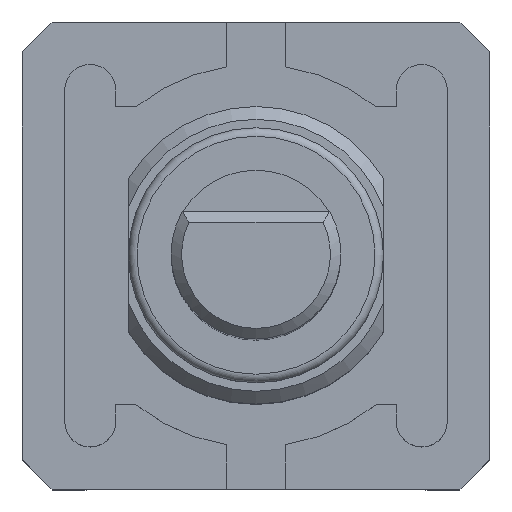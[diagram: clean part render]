
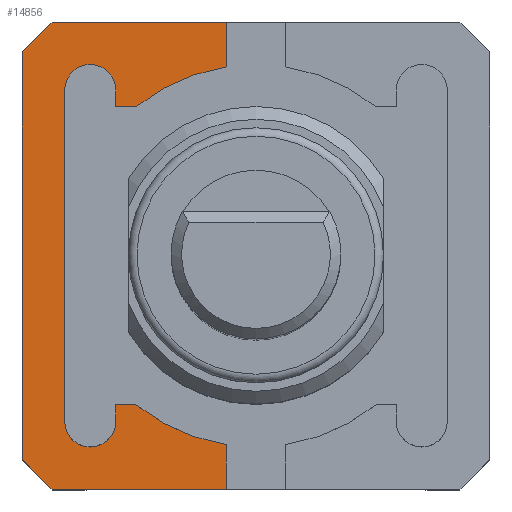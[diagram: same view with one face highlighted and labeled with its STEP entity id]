
A CAD part, top view. The second image highlights one B-rep face of the part: STEP entity #14856.
In plain terms, the highlighted planar face has unit normal (0, 0, 1).
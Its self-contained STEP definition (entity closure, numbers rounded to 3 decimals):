
#625=CIRCLE('',#15944,4.5);
#627=CIRCLE('',#15949,0.6);
#629=CIRCLE('',#15953,0.6);
#631=CIRCLE('',#15958,4.5);
#1370=FACE_OUTER_BOUND('',#2143,.T.);
#2143=EDGE_LOOP('',(#12756,#12757,#12758,#12759,#12760,#12761,#12762,#12763,
#12764,#12765,#12766,#12767,#12768,#12769,#12770,#12771));
#3615=LINE('',#23679,#5235);
#3637=LINE('',#23736,#5257);
#3729=LINE('',#23958,#5349);
#3732=LINE('',#23964,#5352);
#3736=LINE('',#23976,#5356);
#3740=LINE('',#23988,#5360);
#3743=LINE('',#23994,#5363);
#3747=LINE('',#24006,#5367);
#3774=LINE('',#24075,#5394);
#3776=LINE('',#24080,#5396);
#3777=LINE('',#24081,#5397);
#3778=LINE('',#24082,#5398);
#5235=VECTOR('',#19433,10.);
#5257=VECTOR('',#19477,10.);
#5349=VECTOR('',#19677,10.);
#5352=VECTOR('',#19682,10.);
#5356=VECTOR('',#19694,10.);
#5360=VECTOR('',#19706,10.);
#5363=VECTOR('',#19711,10.);
#5367=VECTOR('',#19723,10.);
#5394=VECTOR('',#19790,10.);
#5396=VECTOR('',#19796,10.);
#5397=VECTOR('',#19797,10.);
#5398=VECTOR('',#19798,10.);
#6584=VERTEX_POINT('',#23676);
#6585=VERTEX_POINT('',#23678);
#6608=VERTEX_POINT('',#23733);
#6609=VERTEX_POINT('',#23735);
#6670=VERTEX_POINT('',#23948);
#6671=VERTEX_POINT('',#23950);
#6673=VERTEX_POINT('',#23956);
#6675=VERTEX_POINT('',#23962);
#6677=VERTEX_POINT('',#23968);
#6679=VERTEX_POINT('',#23974);
#6681=VERTEX_POINT('',#23980);
#6683=VERTEX_POINT('',#23986);
#6685=VERTEX_POINT('',#23992);
#6687=VERTEX_POINT('',#23998);
#6689=VERTEX_POINT('',#24004);
#6712=VERTEX_POINT('',#24079);
#8546=EDGE_CURVE('',#6584,#6585,#3615,.T.);
#8572=EDGE_CURVE('',#6608,#6609,#3637,.T.);
#8676=EDGE_CURVE('',#6671,#6670,#625,.T.);
#8680=EDGE_CURVE('',#6670,#6673,#3729,.T.);
#8683=EDGE_CURVE('',#6673,#6675,#3732,.T.);
#8686=EDGE_CURVE('',#6675,#6677,#627,.T.);
#8689=EDGE_CURVE('',#6677,#6679,#3736,.T.);
#8692=EDGE_CURVE('',#6679,#6681,#629,.T.);
#8695=EDGE_CURVE('',#6681,#6683,#3740,.T.);
#8698=EDGE_CURVE('',#6683,#6685,#3743,.T.);
#8701=EDGE_CURVE('',#6685,#6687,#631,.T.);
#8704=EDGE_CURVE('',#6687,#6689,#3747,.T.);
#8739=EDGE_CURVE('',#6608,#6671,#3774,.T.);
#8741=EDGE_CURVE('',#6712,#6689,#3776,.T.);
#8742=EDGE_CURVE('',#6585,#6712,#3777,.T.);
#8743=EDGE_CURVE('',#6609,#6584,#3778,.T.);
#12756=ORIENTED_EDGE('',*,*,#8704,.T.);
#12757=ORIENTED_EDGE('',*,*,#8741,.F.);
#12758=ORIENTED_EDGE('',*,*,#8742,.F.);
#12759=ORIENTED_EDGE('',*,*,#8546,.F.);
#12760=ORIENTED_EDGE('',*,*,#8743,.F.);
#12761=ORIENTED_EDGE('',*,*,#8572,.F.);
#12762=ORIENTED_EDGE('',*,*,#8739,.T.);
#12763=ORIENTED_EDGE('',*,*,#8676,.T.);
#12764=ORIENTED_EDGE('',*,*,#8680,.T.);
#12765=ORIENTED_EDGE('',*,*,#8683,.T.);
#12766=ORIENTED_EDGE('',*,*,#8686,.T.);
#12767=ORIENTED_EDGE('',*,*,#8689,.T.);
#12768=ORIENTED_EDGE('',*,*,#8692,.T.);
#12769=ORIENTED_EDGE('',*,*,#8695,.T.);
#12770=ORIENTED_EDGE('',*,*,#8698,.T.);
#12771=ORIENTED_EDGE('',*,*,#8701,.T.);
#13385=PLANE('',#15981);
#14856=ADVANCED_FACE('',(#1370),#13385,.T.);
#15944=AXIS2_PLACEMENT_3D('',#23951,#19670,#19671);
#15949=AXIS2_PLACEMENT_3D('',#23970,#19688,#19689);
#15953=AXIS2_PLACEMENT_3D('',#23982,#19700,#19701);
#15958=AXIS2_PLACEMENT_3D('',#24000,#19717,#19718);
#15981=AXIS2_PLACEMENT_3D('',#24078,#19794,#19795);
#19433=DIRECTION('',(0.,1.,0.));
#19477=DIRECTION('',(-1.,0.,0.));
#19670=DIRECTION('center_axis',(0.,0.,
-1.));
#19671=DIRECTION('ref_axis',(0.629,0.778,0.));
#19677=DIRECTION('',(-1.,0.,0.));
#19682=DIRECTION('',(0.,-1.,0.));
#19688=DIRECTION('center_axis',(0.,0.,
-1.));
#19689=DIRECTION('ref_axis',(1.,0.,0.));
#19694=DIRECTION('',(0.,1.,0.));
#19700=DIRECTION('center_axis',(0.,0.,
-1.));
#19701=DIRECTION('ref_axis',(-1.,0.,0.));
#19706=DIRECTION('',(0.,-1.,0.));
#19711=DIRECTION('',(1.,0.,0.));
#19717=DIRECTION('center_axis',(0.,0.,
-1.));
#19718=DIRECTION('ref_axis',(0.156,-0.988,0.));
#19723=DIRECTION('',(0.,1.,0.));
#19790=DIRECTION('',(0.,1.,0.));
#19794=DIRECTION('center_axis',(0.,0.,
1.));
#19795=DIRECTION('ref_axis',(0.,1.,0.));
#19796=DIRECTION('',(1.,0.,0.));
#19797=DIRECTION('',(0.707,0.707,0.));
#19798=DIRECTION('',(-0.707,0.707,0.));
#23676=CARTESIAN_POINT('',(-26.521,-12.086,14.585));
#23678=CARTESIAN_POINT('',(-26.521,-2.486,14.585));
#23679=CARTESIAN_POINT('',(-26.521,-2.486,14.585));
#23733=CARTESIAN_POINT('',(-21.721,-12.786,14.585));
#23735=CARTESIAN_POINT('',(-25.821,-12.786,14.585));
#23736=CARTESIAN_POINT('',(-25.821,-12.786,14.585));
#23948=CARTESIAN_POINT('',(-23.85,-10.786,14.585));
#23950=CARTESIAN_POINT('',(-21.721,-11.731,14.585));
#23951=CARTESIAN_POINT('Origin',(-21.021,-7.286,14.585));
#23956=CARTESIAN_POINT('',(-24.321,-10.786,14.585));
#23958=CARTESIAN_POINT('',(-22.436,-10.786,14.585));
#23962=CARTESIAN_POINT('',(-24.321,-11.186,14.585));
#23964=CARTESIAN_POINT('',(-24.321,-9.036,14.585));
#23968=CARTESIAN_POINT('',(-25.521,-11.186,14.585));
#23970=CARTESIAN_POINT('Origin',(-24.921,-11.186,14.585));
#23974=CARTESIAN_POINT('',(-25.521,-3.386,14.585));
#23976=CARTESIAN_POINT('',(-25.521,-9.236,14.585));
#23980=CARTESIAN_POINT('',(-24.321,-3.386,14.585));
#23982=CARTESIAN_POINT('Origin',(-24.921,-3.386,14.585));
#23986=CARTESIAN_POINT('',(-24.321,-3.786,14.585));
#23988=CARTESIAN_POINT('',(-24.321,-5.336,14.585));
#23992=CARTESIAN_POINT('',(-23.85,-3.786,14.585));
#23994=CARTESIAN_POINT('',(-22.671,-3.786,14.585));
#23998=CARTESIAN_POINT('',(-21.721,-2.841,14.585));
#24000=CARTESIAN_POINT('Origin',(-21.021,-7.286,14.585));
#24004=CARTESIAN_POINT('',(-21.721,-1.786,14.585));
#24006=CARTESIAN_POINT('',(-21.721,-5.064,14.585));
#24075=CARTESIAN_POINT('',(-21.721,-10.036,14.585));
#24078=CARTESIAN_POINT('Origin',(-21.021,-7.286,14.585));
#24079=CARTESIAN_POINT('',(-25.821,-1.786,14.585));
#24080=CARTESIAN_POINT('',(-16.221,-1.786,14.585));
#24081=CARTESIAN_POINT('',(-25.821,-1.786,14.585));
#24082=CARTESIAN_POINT('',(-26.521,-12.086,14.585));
